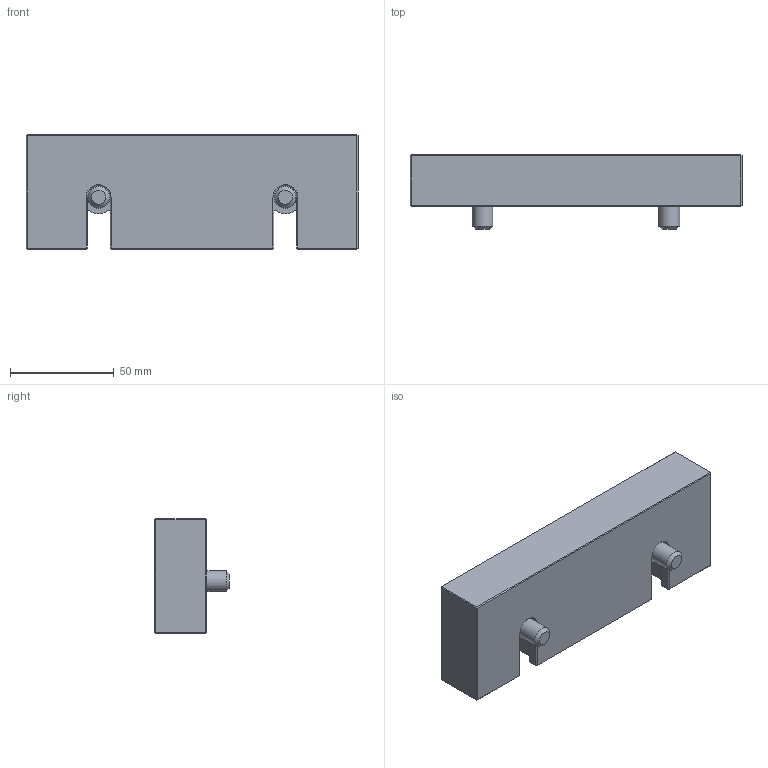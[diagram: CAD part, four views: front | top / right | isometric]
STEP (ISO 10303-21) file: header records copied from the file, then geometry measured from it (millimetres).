
FILE_DESCRIPTION(('STEP AP214'), '1');
FILE_NAME('BB.VS.160.70.010', '', ('UNSPECIFIED'), ('UNSPECIFIED'), 'C3D Converter', 'C3D Toolkit', '');
FILE_SCHEMA(('AUTOMOTIVE_DESIGN { 1 0 10303 214 3 1 1}'));
Length unit declared in the file: millimetre
Products named in the file (1): BB.VS.160.70.010 СБ
Bounding box: 160 x 36 x 55 mm (x, y, z)
Volume: 199280.1 mm3; surface area: 32378.9 mm2
Topology: 1 solids, 1 shells, 118 faces, 256 edges, 142 vertices
Faces by surface type: plane 96, cone 10, cylinder 8, torus 4
Full cylindrical faces by diameter (mm): 10 x2, 16 x2
Entity records: 4427 total; most frequent: CARTESIAN_POINT 991, DIRECTION 498, ORIENTED_EDGE 484, EDGE_CURVE 242, LINE 196, VECTOR 196, AXIS2_PLACEMENT_3D 151, VERTEX_POINT 140
